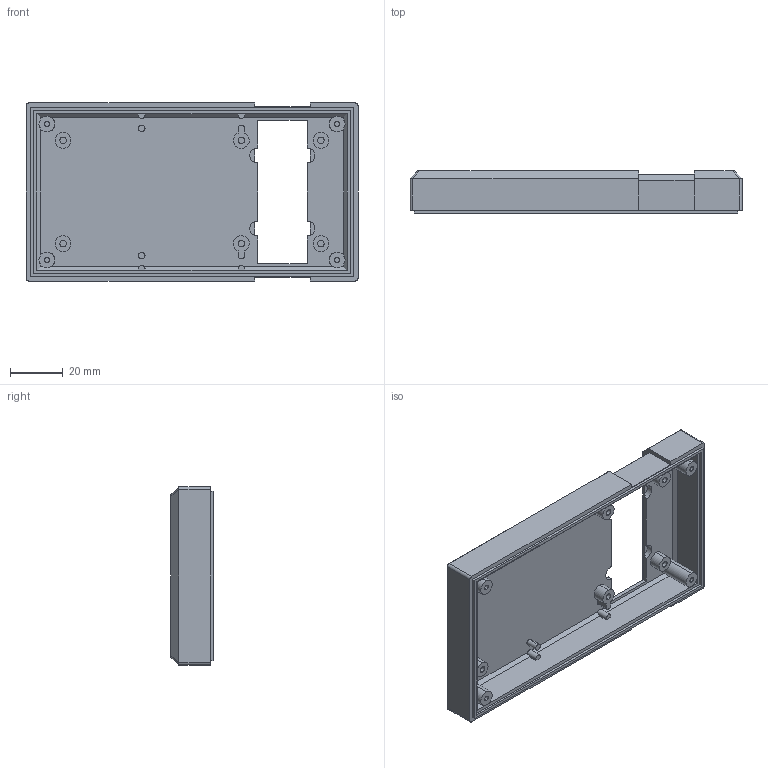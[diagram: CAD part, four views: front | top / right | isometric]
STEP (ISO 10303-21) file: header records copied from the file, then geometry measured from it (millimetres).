
FILE_DESCRIPTION (( 'STEP AP214' ), '1' );
FILE_NAME ('Tapa PP48.STEP', '2019-10-10T17:15:43', ( 'aaa' ), ( '' ), 'SwSTEP 2.0', 'SolidWorks 2014', '' );
FILE_SCHEMA (( 'AUTOMOTIVE_DESIGN' ));
Length unit declared in the file: millimetre
Products named in the file (1): Tapa PP48
Bounding box: 125.5 x 16 x 67.3 mm (x, y, z)
Volume: 39764 mm3; surface area: 27111.6 mm2
Topology: 1 solids, 1 shells, 174 faces, 452 edges, 300 vertices
Faces by surface type: plane 102, cylinder 72
Entity records: 5386 total; most frequent: CARTESIAN_POINT 1035, DIRECTION 910, ORIENTED_EDGE 904, EDGE_CURVE 452, AXIS2_PLACEMENT_3D 319, VERTEX_POINT 300, VECTOR 272, LINE 272
